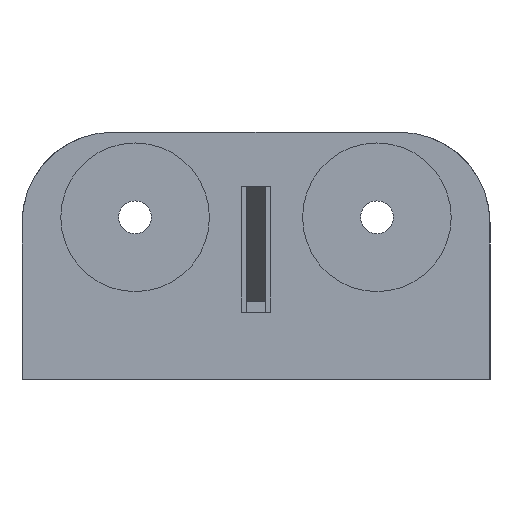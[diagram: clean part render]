
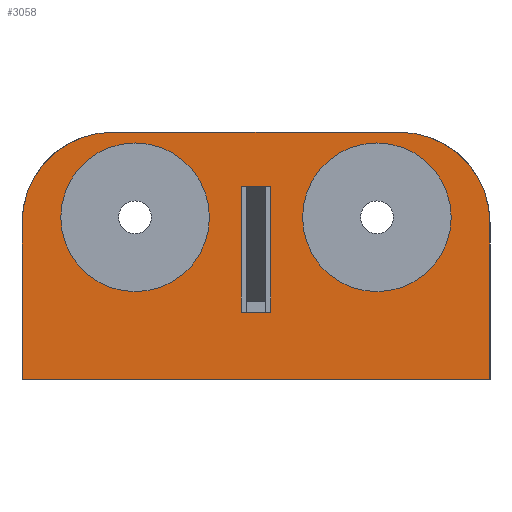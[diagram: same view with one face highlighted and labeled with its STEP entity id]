
A CAD part, left-side view. The second image highlights one B-rep face of the part: STEP entity #3058.
In plain terms, the highlighted planar face has unit normal (-1, 0, 0).
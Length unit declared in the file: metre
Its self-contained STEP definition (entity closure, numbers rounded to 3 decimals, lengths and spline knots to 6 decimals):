
#56=LINE('',#4063,#407);
#59=LINE('',#4069,#410);
#62=LINE('',#4075,#413);
#79=LINE('',#4172,#430);
#85=LINE('',#4186,#436);
#153=LINE('',#4389,#504);
#209=LINE('',#4515,#560);
#404=LINE('',#5046,#755);
#407=VECTOR('',#3328,1.);
#410=VECTOR('',#3333,1.);
#413=VECTOR('',#3338,1.);
#430=VECTOR('',#3373,1.);
#436=VECTOR('',#3381,1.);
#504=VECTOR('',#3565,1.);
#560=VECTOR('',#3673,1.);
#755=VECTOR('',#3996,1.);
#873=PLANE('',#3259);
#1668=ORIENTED_EDGE('',*,*,#1680,.T.);
#1669=ORIENTED_EDGE('',*,*,#2129,.F.);
#1670=ORIENTED_EDGE('',*,*,#1708,.F.);
#1671=ORIENTED_EDGE('',*,*,#1705,.F.);
#1672=ORIENTED_EDGE('',*,*,#1702,.F.);
#1673=ORIENTED_EDGE('',*,*,#1839,.F.);
#1674=ORIENTED_EDGE('',*,*,#1841,.F.);
#1675=ORIENTED_EDGE('',*,*,#1905,.F.);
#1676=ORIENTED_EDGE('',*,*,#1737,.F.);
#1677=ORIENTED_EDGE('',*,*,#1786,.F.);
#1678=ORIENTED_EDGE('',*,*,#1743,.F.);
#1679=ORIENTED_EDGE('',*,*,#1698,.T.);
#1680=EDGE_CURVE('NONE',#2132,#2132,#2464,.F.);
#1698=EDGE_CURVE('NONE',#2150,#2150,#2482,.F.);
#1702=EDGE_CURVE('NONE',#2154,#2155,#56,.F.);
#1705=EDGE_CURVE('NONE',#2155,#2157,#59,.F.);
#1708=EDGE_CURVE('NONE',#2157,#2159,#62,.F.);
#1737=EDGE_CURVE('NONE',#2182,#2183,#79,.F.);
#1743=EDGE_CURVE('NONE',#2188,#2189,#85,.F.);
#1786=EDGE_CURVE('NONE',#2189,#2182,#2494,.F.);
#1839=EDGE_CURVE('NONE',#2253,#2188,#2509,.F.);
#1841=EDGE_CURVE('NONE',#2254,#2253,#153,.T.);
#1905=EDGE_CURVE('NONE',#2183,#2254,#209,.F.);
#2129=EDGE_CURVE('NONE',#2159,#2154,#404,.F.);
#2132=VERTEX_POINT('',#4008);
#2150=VERTEX_POINT('',#4053);
#2154=VERTEX_POINT('',#4062);
#2155=VERTEX_POINT('',#4064);
#2157=VERTEX_POINT('',#4070);
#2159=VERTEX_POINT('',#4076);
#2182=VERTEX_POINT('',#4173);
#2183=VERTEX_POINT('',#4174);
#2188=VERTEX_POINT('',#4185);
#2189=VERTEX_POINT('',#4187);
#2253=VERTEX_POINT('',#4385);
#2254=VERTEX_POINT('',#4390);
#2464=CIRCLE('',#3065,0.003905);
#2482=CIRCLE('',#3092,0.003905);
#2494=CIRCLE('',#3132,0.004763);
#2509=CIRCLE('',#3163,0.004763);
#2709=EDGE_LOOP('',(#1668));
#2710=EDGE_LOOP('',(#1669,#1670,#1671,#1672));
#2711=EDGE_LOOP('',(#1673,#1674,#1675,#1676,#1677,#1678));
#2712=EDGE_LOOP('',(#1679));
#2899=FACE_BOUND('',#2709,.T.);
#2900=FACE_BOUND('',#2710,.T.);
#2901=FACE_BOUND('',#2711,.T.);
#2902=FACE_BOUND('',#2712,.T.);
#3058=ADVANCED_FACE('NONE',(#2899,#2900,#2901,#2902),#873,.F.);
#3065=AXIS2_PLACEMENT_3D('',#4007,#3264,#3265);
#3092=AXIS2_PLACEMENT_3D('',#4052,#3318,#3319);
#3132=AXIS2_PLACEMENT_3D('',#4275,#3461,#3462);
#3163=AXIS2_PLACEMENT_3D('',#4386,#3559,#3560);
#3259=AXIS2_PLACEMENT_3D('',#5052,#4003,#4004);
#3264=DIRECTION('',(-1.,0.,0.));
#3265=DIRECTION('',(0.,-1.,0.));
#3318=DIRECTION('',(-1.,0.,0.));
#3319=DIRECTION('',(0.,-1.,0.));
#3328=DIRECTION('',(0.,0.,-1.));
#3333=DIRECTION('',(0.,-1.,0.));
#3338=DIRECTION('',(0.,0.,1.));
#3373=DIRECTION('',(0.,0.,1.));
#3381=DIRECTION('',(0.,1.,0.));
#3461=DIRECTION('',(-1.,0.,0.));
#3462=DIRECTION('',(0.,-1.,0.));
#3559=DIRECTION('',(-1.,0.,0.));
#3560=DIRECTION('',(0.,-1.,0.));
#3565=DIRECTION('',(0.,0.,1.));
#3673=DIRECTION('',(0.,-1.,0.));
#3996=DIRECTION('',(0.,1.,0.));
#4003=DIRECTION('',(1.,0.,0.));
#4004=DIRECTION('',(0.,1.,0.));
#4007=CARTESIAN_POINT('',(-0.02659,-0.054417,0.006432));
#4008=CARTESIAN_POINT('',(-0.02659,-0.058323,0.006432));
#4052=CARTESIAN_POINT('',(-0.02659,-0.067117,0.006432));
#4053=CARTESIAN_POINT('',(-0.02659,-0.071023,0.006432));
#4062=CARTESIAN_POINT('',(-0.02659,-0.061555,0.001454));
#4063=CARTESIAN_POINT('',(-0.02659,-0.061555,0.008058));
#4064=CARTESIAN_POINT('',(-0.02659,-0.061555,0.008058));
#4069=CARTESIAN_POINT('',(-0.02659,-0.05998,0.008058));
#4070=CARTESIAN_POINT('',(-0.02659,-0.05998,0.008058));
#4075=CARTESIAN_POINT('',(-0.02659,-0.05998,0.008058));
#4076=CARTESIAN_POINT('',(-0.02659,-0.05998,0.001454));
#4172=CARTESIAN_POINT('',(-0.02659,-0.073061,-0.002102));
#4173=CARTESIAN_POINT('',(-0.02659,-0.073061,0.00614));
#4174=CARTESIAN_POINT('',(-0.02659,-0.073061,-0.002102));
#4185=CARTESIAN_POINT('',(-0.02659,-0.053236,0.010902));
#4186=CARTESIAN_POINT('',(-0.02659,-0.053236,0.010902));
#4187=CARTESIAN_POINT('',(-0.02659,-0.068299,0.010902));
#4275=CARTESIAN_POINT('',(-0.02659,-0.068299,0.00614));
#4385=CARTESIAN_POINT('',(-0.02659,-0.048474,0.00614));
#4386=CARTESIAN_POINT('',(-0.02659,-0.053236,0.00614));
#4389=CARTESIAN_POINT('',(-0.02659,-0.048474,-0.002102));
#4390=CARTESIAN_POINT('',(-0.02659,-0.048474,-0.002102));
#4515=CARTESIAN_POINT('',(-0.02659,-0.073061,-0.002102));
#5046=CARTESIAN_POINT('',(-0.02659,-0.061555,0.001454));
#5052=CARTESIAN_POINT('',(-0.02659,-0.053236,0.00614));
